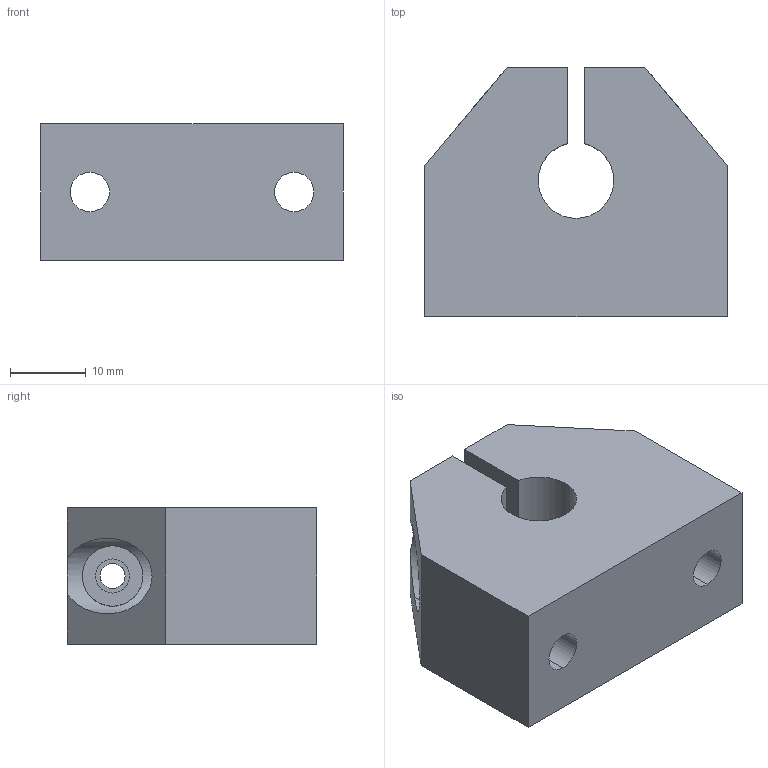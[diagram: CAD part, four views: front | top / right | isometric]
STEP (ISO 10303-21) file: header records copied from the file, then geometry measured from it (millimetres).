
FILE_DESCRIPTION (( 'STEP AP214' ), '1' );
FILE_NAME ('KWBC58-10.step', '2020-03-04T13:11:09', ( '' ), ( '' ), 'SwSTEP 2.0', 'SolidWorks 2019', '' );
FILE_SCHEMA (( 'AUTOMOTIVE_DESIGN' ));
Length unit declared in the file: millimetre
Products named in the file (1): KWBC58-10
Bounding box: 40 x 33 x 18 mm (x, y, z)
Volume: 16565.2 mm3; surface area: 6663.8 mm2
Topology: 1 solids, 1 shells, 31 faces, 84 edges, 56 vertices
Faces by surface type: cylinder 17, plane 14
Entity records: 1230 total; most frequent: CARTESIAN_POINT 326, ORIENTED_EDGE 168, DIRECTION 166, EDGE_CURVE 84, AXIS2_PLACEMENT_3D 60, VERTEX_POINT 56, LINE 46, VECTOR 46
